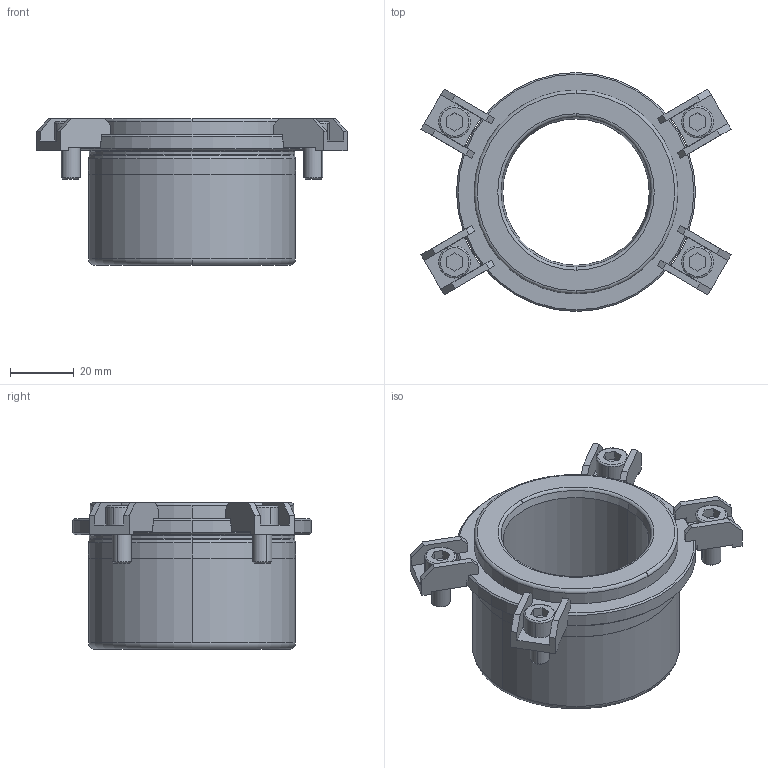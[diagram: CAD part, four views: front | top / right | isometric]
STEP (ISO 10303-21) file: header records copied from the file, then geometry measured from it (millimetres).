
FILE_DESCRIPTION((''),'2;1');
FILE_NAME('B42_038_036.stp','2008-11-04T14:33:40',(''),(''),'Mechanical Desktop 2009','Mechanical Desktop 2009',', , ');
FILE_SCHEMA(('CONFIG_CONTROL_DESIGN'));
Length unit declared in the file: millimetre
Products named in the file (2): Product; blmdl1
Assembly tree (1 placements, depth 2):
  Product
    blmdl1
Bounding box: 97.32 x 75 x 46 mm (x, y, z)
Volume: 86795.4 mm3; surface area: 27774.1 mm2
Topology: 9 solids, 9 shells, 233 faces, 598 edges, 394 vertices
Faces by surface type: plane 137, cylinder 48, cone 20, torus 16, bspline 12
Entity records: 7707 total; most frequent: CARTESIAN_POINT 1755, DIRECTION 1258, ORIENTED_EDGE 1196, EDGE_CURVE 598, AXIS2_PLACEMENT_3D 437, VERTEX_POINT 394, VECTOR 384, LINE 384
